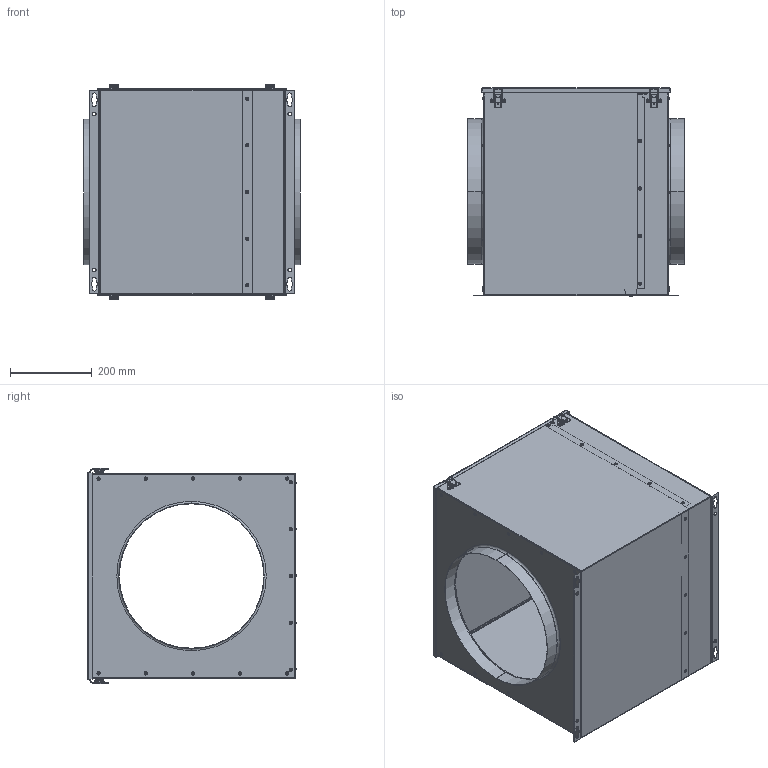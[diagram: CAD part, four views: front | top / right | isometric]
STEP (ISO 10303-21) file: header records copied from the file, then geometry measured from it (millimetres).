
FILE_DESCRIPTION (( 'STEP AP203' ), '1' );
FILE_NAME ('112847-01_FT355_step.step', '2020-08-26T08:42:34', ( '' ), ( '' ), 'SwSTEP 2.0', 'SolidWorks 2017', '' );
FILE_SCHEMA (( 'CONFIG_CONTROL_DESIGN' ));
Length unit declared in the file: millimetre
Products named in the file (1): 112847-01_FT355_step
Bounding box: 530 x 509.3 x 527.59 mm (x, y, z)
Surface area: 2808906.8 mm2 (no closed solid volume)
Topology: 0 solids, 96 shells, 705 faces, 2407 edges, 1696 vertices
Faces by surface type: cylinder 328, plane 169, torus 124, bspline 84
Entity records: 28175 total; most frequent: CARTESIAN_POINT 6683, DIRECTION 5017, ORIENTED_EDGE 3676, EDGE_CURVE 2407, AXIS2_PLACEMENT_3D 2050, VERTEX_POINT 1696, CIRCLE 1428, LINE 917
